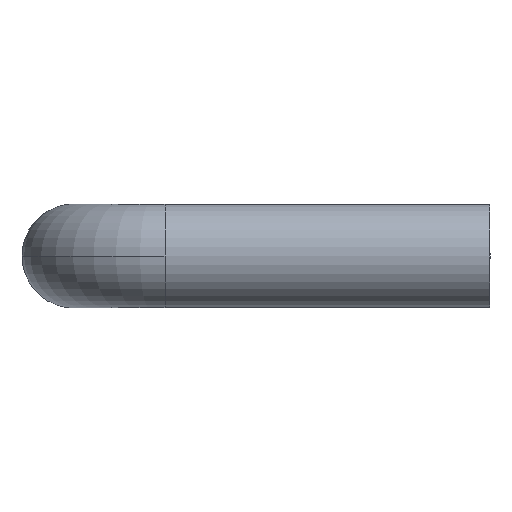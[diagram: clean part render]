
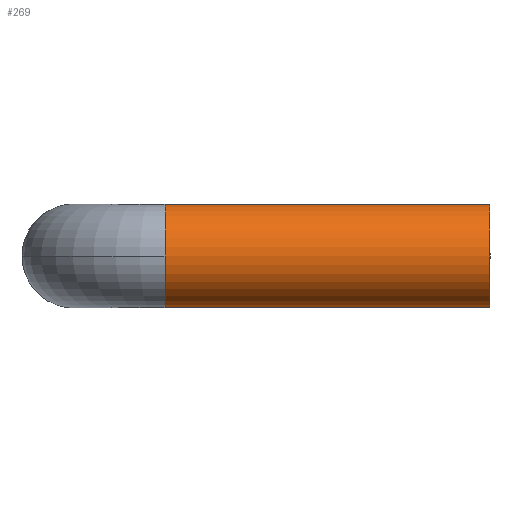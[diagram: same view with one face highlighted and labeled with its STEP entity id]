
A CAD part, left-side view. The second image highlights one B-rep face of the part: STEP entity #269.
In plain terms, the highlighted cylindrical face has radius 4 mm (diameter 8 mm), a partial arc.
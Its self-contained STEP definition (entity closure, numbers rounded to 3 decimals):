
#20 = ORIENTED_EDGE ( 'NONE', *, *, #418, .F. ) ;
#33 = DIRECTION ( 'NONE',  ( 0., 0., -1. ) ) ;
#63 = DIRECTION ( 'NONE',  ( 0., -1., 0. ) ) ;
#64 = VERTEX_POINT ( 'NONE', #140 ) ;
#86 = VERTEX_POINT ( 'NONE', #200 ) ;
#93 = CARTESIAN_POINT ( 'NONE',  ( -60., -7., -4. ) ) ;
#131 = AXIS2_PLACEMENT_3D ( 'NONE', #149, #63, #33 ) ;
#140 = CARTESIAN_POINT ( 'NONE',  ( -60., -7., -4. ) ) ;
#145 = CARTESIAN_POINT ( 'NONE',  ( -60., -7., 0. ) ) ;
#149 = CARTESIAN_POINT ( 'NONE',  ( -60., -7., 0. ) ) ;
#155 = LINE ( 'NONE', #301, #474 ) ;
#157 = VERTEX_POINT ( 'NONE', #341 ) ;
#173 = DIRECTION ( 'NONE',  ( 0., -1., 0. ) ) ;
#181 = DIRECTION ( 'NONE',  ( 0., 0., -1. ) ) ;
#200 = CARTESIAN_POINT ( 'NONE',  ( -60., -7., 4. ) ) ;
#209 = EDGE_CURVE ( 'NONE', #86, #601, #382, .T. ) ;
#237 = DIRECTION ( 'NONE',  ( 0., -1., 0. ) ) ;
#244 = CIRCLE ( 'NONE', #131, 4. ) ;
#246 = DIRECTION ( 'NONE',  ( 0., -1., 0. ) ) ;
#259 = CYLINDRICAL_SURFACE ( 'NONE', #522, 4. ) ;
#269 = ADVANCED_FACE ( 'NONE', ( #542 ), #259, .T. ) ;
#284 = ORIENTED_EDGE ( 'NONE', *, *, #209, .T. ) ;
#292 = VECTOR ( 'NONE', #429, 1000. ) ;
#294 = AXIS2_PLACEMENT_3D ( 'NONE', #507, #504, #502 ) ;
#301 = CARTESIAN_POINT ( 'NONE',  ( -60., -7., 4. ) ) ;
#326 = CARTESIAN_POINT ( 'NONE',  ( -60., -7., 0. ) ) ;
#327 = AXIS2_PLACEMENT_3D ( 'NONE', #145, #173, #181 ) ;
#341 = CARTESIAN_POINT ( 'NONE',  ( -60., -32., 4. ) ) ;
#364 = LINE ( 'NONE', #93, #292 ) ;
#382 = CIRCLE ( 'NONE', #327, 4. ) ;
#402 = EDGE_LOOP ( 'NONE', ( #20, #284, #496, #490, #523 ) ) ;
#418 = EDGE_CURVE ( 'NONE', #86, #157, #155, .T. ) ;
#429 = DIRECTION ( 'NONE',  ( 0., -1., 0. ) ) ;
#430 = EDGE_CURVE ( 'NONE', #601, #64, #244, .T. ) ;
#458 = CARTESIAN_POINT ( 'NONE',  ( -60., -32., -4. ) ) ;
#468 = EDGE_CURVE ( 'NONE', #157, #500, #525, .T. ) ;
#474 = VECTOR ( 'NONE', #246, 1000. ) ;
#490 = ORIENTED_EDGE ( 'NONE', *, *, #544, .T. ) ;
#491 = DIRECTION ( 'NONE',  ( 0., 0., -1. ) ) ;
#496 = ORIENTED_EDGE ( 'NONE', *, *, #430, .T. ) ;
#500 = VERTEX_POINT ( 'NONE', #458 ) ;
#502 = DIRECTION ( 'NONE',  ( 0., 0., -1. ) ) ;
#504 = DIRECTION ( 'NONE',  ( 0., -1., 0. ) ) ;
#507 = CARTESIAN_POINT ( 'NONE',  ( -60., -32., 0. ) ) ;
#522 = AXIS2_PLACEMENT_3D ( 'NONE', #326, #237, #491 ) ;
#523 = ORIENTED_EDGE ( 'NONE', *, *, #468, .F. ) ;
#525 = CIRCLE ( 'NONE', #294, 4. ) ;
#542 = FACE_OUTER_BOUND ( 'NONE', #402, .T. ) ;
#544 = EDGE_CURVE ( 'NONE', #64, #500, #364, .T. ) ;
#557 = CARTESIAN_POINT ( 'NONE',  ( -64., -7., 0. ) ) ;
#601 = VERTEX_POINT ( 'NONE', #557 ) ;
